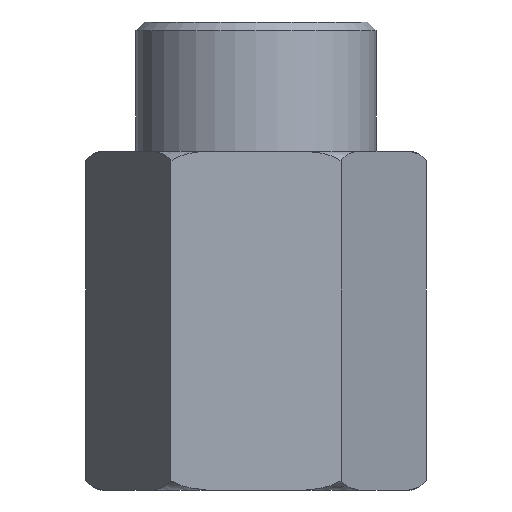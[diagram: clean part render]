
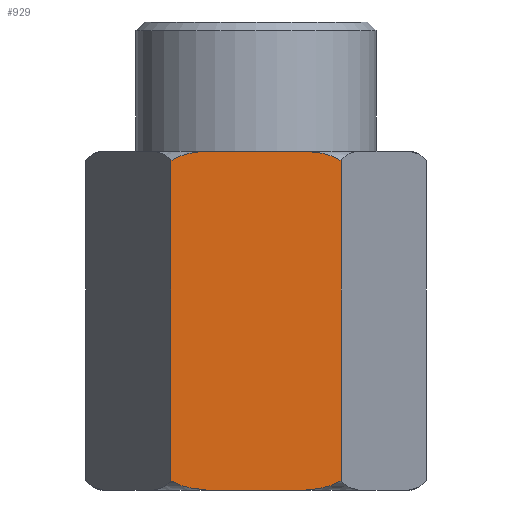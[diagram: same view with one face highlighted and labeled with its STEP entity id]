
A CAD part, front view. The second image highlights one B-rep face of the part: STEP entity #929.
In plain terms, the highlighted planar face has unit normal (0, -1, 0).
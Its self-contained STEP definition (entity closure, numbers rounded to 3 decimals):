
#6 = DIRECTION ( 'NONE',  ( 1., 0., 0. ) ) ;
#25 = DIRECTION ( 'NONE',  ( 1., 0., 0. ) ) ;
#64 = ORIENTED_EDGE ( 'NONE', *, *, #1540, .F. ) ;
#81 = CARTESIAN_POINT ( 'NONE',  ( -2.867, -8.5, -7.45 ) ) ;
#84 = CARTESIAN_POINT ( 'NONE',  ( 4.095, -8.5, -7.639 ) ) ;
#107 = CARTESIAN_POINT ( 'NONE',  ( -4.907, -8.5, -8.003 ) ) ;
#122 = DIRECTION ( 'NONE',  ( 0., 0., 1. ) ) ;
#141 = DIRECTION ( 'NONE',  ( 0., -1., 0. ) ) ;
#147 = CARTESIAN_POINT ( 'NONE',  ( 4.907, -8.5, -26.447 ) ) ;
#154 = CARTESIAN_POINT ( 'NONE',  ( 4.266, -8.5, -26.76 ) ) ;
#160 = CARTESIAN_POINT ( 'NONE',  ( 2.867, -8.5, -7.45 ) ) ;
#163 = CARTESIAN_POINT ( 'NONE',  ( -2.867, -8.5, -27. ) ) ;
#182 = EDGE_CURVE ( 'NONE', #283, #1510, #1252, .T. ) ;
#189 = CARTESIAN_POINT ( 'NONE',  ( -3.574, -8.5, -7.517 ) ) ;
#213 = CARTESIAN_POINT ( 'NONE',  ( 4.907, -8.5, -26.447 ) ) ;
#234 = B_SPLINE_CURVE_WITH_KNOTS ( 'NONE', 3,
 ( #147, #1362, #640, #154, #888, #1019, #754, #876 ),
 .UNSPECIFIED., .F., .F.,
 ( 4, 2, 2, 4 ),
 ( 0.019, 0.02, 0.02, 0.021 ),
 .UNSPECIFIED. ) ;
#260 = CARTESIAN_POINT ( 'NONE',  ( -4.907, -8.5, -27. ) ) ;
#272 = ORIENTED_EDGE ( 'NONE', *, *, #182, .T. ) ;
#283 = VERTEX_POINT ( 'NONE', #1495 ) ;
#288 = ORIENTED_EDGE ( 'NONE', *, *, #1311, .F. ) ;
#306 = B_SPLINE_CURVE_WITH_KNOTS ( 'NONE', 3,
 ( #163, #646, #1422, #425, #538, #547, #670, #1166 ),
 .UNSPECIFIED., .F., .F.,
 ( 4, 2, 2, 4 ),
 ( 0.003, 0.004, 0.004, 0.005 ),
 .UNSPECIFIED. ) ;
#310 = CARTESIAN_POINT ( 'NONE',  ( -3.222, -8.5, -7.475 ) ) ;
#315 = VECTOR ( 'NONE', #1554, 1000. ) ;
#343 = B_SPLINE_CURVE_WITH_KNOTS ( 'NONE', 3,
 ( #819, #815, #1437, #84, #960, #1450, #953, #451 ),
 .UNSPECIFIED., .F., .F.,
 ( 4, 2, 2, 4 ),
 ( 0.003, 0.004, 0.004, 0.005 ),
 .UNSPECIFIED. ) ;
#390 = VECTOR ( 'NONE', #6, 1000. ) ;
#422 = EDGE_CURVE ( 'NONE', #727, #1581, #1236, .T. ) ;
#425 = CARTESIAN_POINT ( 'NONE',  ( -4.095, -8.5, -26.811 ) ) ;
#436 = DIRECTION ( 'NONE',  ( -1., 0., 0. ) ) ;
#451 = CARTESIAN_POINT ( 'NONE',  ( 4.907, -8.5, -8.003 ) ) ;
#493 = VECTOR ( 'NONE', #436, 1000. ) ;
#527 = VECTOR ( 'NONE', #122, 1000. ) ;
#538 = CARTESIAN_POINT ( 'NONE',  ( -4.267, -8.5, -26.76 ) ) ;
#547 = CARTESIAN_POINT ( 'NONE',  ( -4.599, -8.5, -26.628 ) ) ;
#640 = CARTESIAN_POINT ( 'NONE',  ( 4.599, -8.5, -26.629 ) ) ;
#646 = CARTESIAN_POINT ( 'NONE',  ( -3.223, -8.5, -26.975 ) ) ;
#670 = CARTESIAN_POINT ( 'NONE',  ( -4.761, -8.5, -26.548 ) ) ;
#727 = VERTEX_POINT ( 'NONE', #213 ) ;
#754 = CARTESIAN_POINT ( 'NONE',  ( 3.222, -8.5, -26.975 ) ) ;
#793 = AXIS2_PLACEMENT_3D ( 'NONE', #260, #141, #25 ) ;
#798 = CARTESIAN_POINT ( 'NONE',  ( -4.093, -8.5, -7.639 ) ) ;
#809 = ORIENTED_EDGE ( 'NONE', *, *, #422, .T. ) ;
#815 = CARTESIAN_POINT ( 'NONE',  ( 3.223, -8.5, -7.475 ) ) ;
#819 = CARTESIAN_POINT ( 'NONE',  ( 2.867, -8.5, -7.45 ) ) ;
#846 = VERTEX_POINT ( 'NONE', #1344 ) ;
#865 = CARTESIAN_POINT ( 'NONE',  ( -4.907, -8.5, -27. ) ) ;
#868 = PLANE ( 'NONE',  #793 ) ;
#876 = CARTESIAN_POINT ( 'NONE',  ( 2.867, -8.5, -27. ) ) ;
#888 = CARTESIAN_POINT ( 'NONE',  ( 4.093, -8.5, -26.811 ) ) ;
#897 = ORIENTED_EDGE ( 'NONE', *, *, #1063, .F. ) ;
#921 = EDGE_LOOP ( 'NONE', ( #1428, #272, #288, #809, #897, #1451, #1580, #64 ) ) ;
#929 = ADVANCED_FACE ( 'NONE', ( #1388 ), #868, .T. ) ;
#936 = CARTESIAN_POINT ( 'NONE',  ( 2.867, -8.5, -27. ) ) ;
#939 = CARTESIAN_POINT ( 'NONE',  ( -4.907, -8.5, -7.45 ) ) ;
#941 = CARTESIAN_POINT ( 'NONE',  ( -4.266, -8.5, -7.69 ) ) ;
#953 = CARTESIAN_POINT ( 'NONE',  ( 4.761, -8.5, -7.902 ) ) ;
#960 = CARTESIAN_POINT ( 'NONE',  ( 4.267, -8.5, -7.69 ) ) ;
#1019 = CARTESIAN_POINT ( 'NONE',  ( 3.574, -8.5, -26.933 ) ) ;
#1021 = EDGE_CURVE ( 'NONE', #283, #846, #306, .T. ) ;
#1046 = CARTESIAN_POINT ( 'NONE',  ( -4.759, -8.5, -7.901 ) ) ;
#1063 = EDGE_CURVE ( 'NONE', #1471, #1581, #343, .T. ) ;
#1158 = LINE ( 'NONE', #939, #493 ) ;
#1166 = CARTESIAN_POINT ( 'NONE',  ( -4.907, -8.5, -26.447 ) ) ;
#1172 = CARTESIAN_POINT ( 'NONE',  ( 4.907, -8.5, -8.003 ) ) ;
#1180 = CARTESIAN_POINT ( 'NONE',  ( -4.599, -8.5, -7.821 ) ) ;
#1195 = VERTEX_POINT ( 'NONE', #107 ) ;
#1236 = LINE ( 'NONE', #1436, #527 ) ;
#1252 = LINE ( 'NONE', #865, #390 ) ;
#1303 = LINE ( 'NONE', #1434, #315 ) ;
#1311 = EDGE_CURVE ( 'NONE', #727, #1510, #234, .T. ) ;
#1340 = B_SPLINE_CURVE_WITH_KNOTS ( 'NONE', 3,
 ( #1425, #1046, #1180, #941, #798, #189, #310, #81 ),
 .UNSPECIFIED., .F., .F.,
 ( 4, 2, 2, 4 ),
 ( 0.019, 0.02, 0.02, 0.021 ),
 .UNSPECIFIED. ) ;
#1344 = CARTESIAN_POINT ( 'NONE',  ( -4.907, -8.5, -26.447 ) ) ;
#1362 = CARTESIAN_POINT ( 'NONE',  ( 4.759, -8.5, -26.549 ) ) ;
#1388 = FACE_OUTER_BOUND ( 'NONE', #921, .T. ) ;
#1393 = CARTESIAN_POINT ( 'NONE',  ( -2.867, -8.5, -7.45 ) ) ;
#1413 = VERTEX_POINT ( 'NONE', #1393 ) ;
#1422 = CARTESIAN_POINT ( 'NONE',  ( -3.576, -8.5, -26.933 ) ) ;
#1425 = CARTESIAN_POINT ( 'NONE',  ( -4.907, -8.5, -8.003 ) ) ;
#1428 = ORIENTED_EDGE ( 'NONE', *, *, #1021, .F. ) ;
#1434 = CARTESIAN_POINT ( 'NONE',  ( -4.907, -8.5, -27. ) ) ;
#1436 = CARTESIAN_POINT ( 'NONE',  ( 4.907, -8.5, -27. ) ) ;
#1437 = CARTESIAN_POINT ( 'NONE',  ( 3.576, -8.5, -7.517 ) ) ;
#1450 = CARTESIAN_POINT ( 'NONE',  ( 4.599, -8.5, -7.822 ) ) ;
#1451 = ORIENTED_EDGE ( 'NONE', *, *, #1494, .T. ) ;
#1471 = VERTEX_POINT ( 'NONE', #160 ) ;
#1494 = EDGE_CURVE ( 'NONE', #1471, #1413, #1158, .T. ) ;
#1495 = CARTESIAN_POINT ( 'NONE',  ( -2.867, -8.5, -27. ) ) ;
#1510 = VERTEX_POINT ( 'NONE', #936 ) ;
#1514 = EDGE_CURVE ( 'NONE', #1195, #1413, #1340, .T. ) ;
#1540 = EDGE_CURVE ( 'NONE', #846, #1195, #1303, .T. ) ;
#1554 = DIRECTION ( 'NONE',  ( 0., 0., 1. ) ) ;
#1580 = ORIENTED_EDGE ( 'NONE', *, *, #1514, .F. ) ;
#1581 = VERTEX_POINT ( 'NONE', #1172 ) ;
